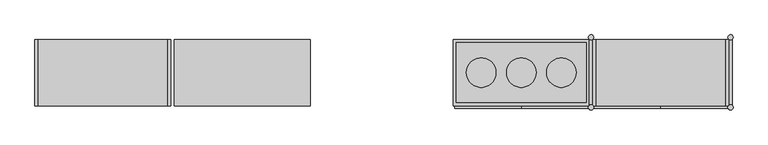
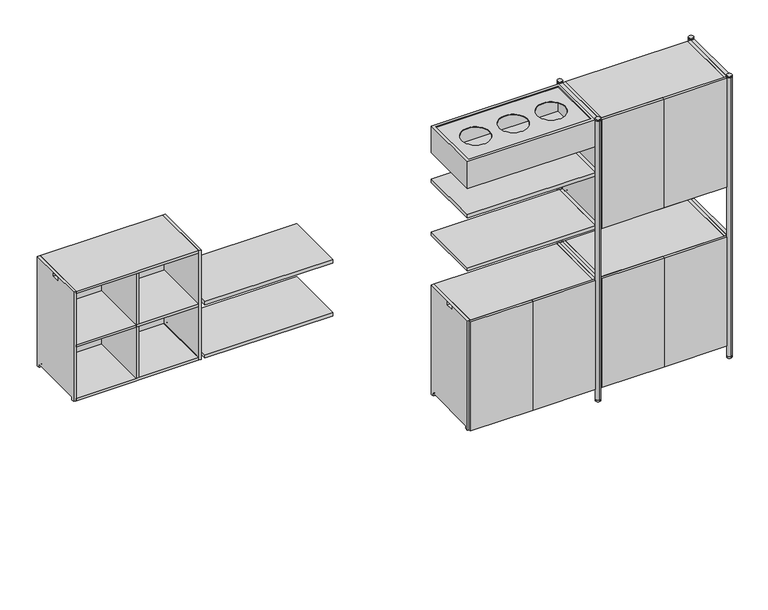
"""IFC4 building model written with IfcOpenShell, lengths in millimetres: furniture geometry, MAKR_TEMPLATE_900mmL1 : MAKR_TEMPLATE_900mmL 2."""

from ifc_helpers import new_model, si_unit, point, frame, frame_2d, origin, origin_with_axes, place, context, project, spatial, polyline, circle_curve, trimmed, segment, composite_curve, outline, extrude, source, transform, mapped, element, save
from ifc_brep_helpers import plane_surface, revolved_surface, advanced_brep


def furniture_f1a00beb(model_context):
    return source(origin(), model_context, "Body", "SolidModel", [
        extrude(outline(polyline([(1375.0, 218.5217186), (1375.0, -221.4782814), (475.0, -221.4782814), (475.0, 218.5217186), (1375.0, 218.5217186)])), frame((0.0, 0.0, 1274.0), z_axis=(0.0, 0.0, 1.0), x_axis=(1.0, 0.0, 0.0)), (0.0, 0.0, 1.0), 25.0),
        extrude(outline(polyline([(1375.0, 218.5217186), (1375.0, -221.4782814), (475.0, -221.4782814), (475.0, 218.5217186), (1375.0, 218.5217186)])), frame((0.0, 0.0, 1669.0), z_axis=(0.0, 0.0, 1.0), x_axis=(1.0, 0.0, 0.0)), (0.0, 0.0, 1.0), 25.0),
        extrude(outline(composite_curve([segment(polyline([(-221.4782814, 2089.0), (218.5217186, 2089.0), (218.5217186, 1274.0), (196.5217186, 1274.0), (196.5217186, 1291.0)]), True, "CONTINUOUS"), segment(trimmed(circle_curve(frame_2d((192.5217186, 1291.0)), 4.0), [point((196.5217186, 1291.0))], [point((192.5217186, 1295.0))], True, "CARTESIAN"), True, "CONTINUOUS"), segment(polyline([(192.5217186, 1295.0), (-195.4782814, 1295.0)]), True, "CONTINUOUS"), segment(trimmed(circle_curve(frame_2d((-195.4782814, 1291.0)), 4.0), [point((-195.4782814, 1295.0))], [point((-199.4782814, 1291.0))], True, "CARTESIAN"), True, "CONTINUOUS"), segment(polyline([(-199.4782814, 1291.0), (-199.4782814, 1274.0), (-221.4782814, 1274.0), (-221.4782814, 2089.0)]), True, "CONTINUOUS")], self_intersect=False), holes=[polyline([(-27.4782814, 2084.0), (-27.4782814, 2059.0), (24.5217186, 2059.0), (24.5217186, 2084.0), (-27.4782814, 2084.0)])]), frame((1400.0, 0.0, 0.0), z_axis=(1.0, 0.0, 0.0), x_axis=(0.0, 1.0, 0.0)), (0.0, 0.0, 1.0), 18.0),
        advanced_brep(
        [(2282.0, 218.5217186, 1292.0), (1418.0, 218.5217186, 1292.0), (1418.0, 196.394702, 1292.0), (1423.8980785, 196.394702, 1292.0), (1423.8980785, -199.3512647, 1292.0), (1418.0, -199.3512647, 1292.0), (1418.0, -221.4782814, 1292.0), (2282.0, -221.4782814, 1292.0), (2282.0, 218.5217186, 1274.0), (2282.0, -221.4782814, 1274.0), (1418.0, -221.4782814, 1274.0), (1418.0, -199.4782814, 1274.0), (1423.8980785, -199.4782814, 1274.0), (1423.8980785, 196.5217186, 1274.0), (1418.0, 196.5217186, 1274.0), (1418.0, 218.5217186, 1274.0), (1418.0, 196.5217186, 1291.0), (1418.0, -199.4782814, 1291.0), (1423.8980785, 196.5217186, 1291.0), (1423.8980785, -199.4782814, 1291.0)],
        [
            (0, 1),
            (1, 2),
            (2, 3),
            (3, 4),
            (4, 5),
            (5, 6),
            (6, 7),
            (7, 0),
            (8, 9),
            (9, 10),
            (10, 11),
            (11, 12),
            (12, 13),
            (13, 14),
            (14, 15),
            (15, 8),
            (0, 8),
            (15, 1),
            (14, 16),
            (16, 2, circle_curve(frame((1418.0, 192.5217186, 1291.0), z_axis=(1.0, 0.0, 0.0), x_axis=(0.0, 1.0, 0.0)), 4.0)),
            (10, 6),
            (5, 17, circle_curve(frame((1418.0, -195.4782814, 1291.0), z_axis=(1.0, 0.0, 0.0), x_axis=(0.0, 1.0, 0.0)), 4.0)),
            (17, 11),
            (9, 7),
            (18, 13),
            (12, 19),
            (19, 4, circle_curve(frame((1423.8980785, -195.4782814, 1291.0), z_axis=(-1.0, 0.0, 0.0), x_axis=(0.0, 1.0, 0.0)), 4.0)),
            (3, 18, circle_curve(frame((1423.8980785, 192.5217186, 1291.0), z_axis=(-1.0, 0.0, 0.0), x_axis=(0.0, 1.0, 0.0)), 4.0)),
            (19, 17),
            (18, 16),
        ],
        [
            plane_surface(frame((1418.0, 218.5217186, 1292.0), z_axis=(0.0, 0.0, 1.0), x_axis=(-1.0, 0.0, 0.0))),
            plane_surface(frame((1418.0, 218.5217186, 1274.0), z_axis=(0.0, 0.0, -1.0), x_axis=(1.0, 0.0, 0.0))),
            plane_surface(frame((2282.0, 218.5217186, 1292.0), z_axis=(0.0, 1.0, 0.0), x_axis=(0.0, 0.0, -1.0))),
            plane_surface(frame((1418.0, 218.5217186, 1292.0), z_axis=(-1.0, 0.0, 0.0), x_axis=(0.0, 0.0, -1.0))),
            plane_surface(frame((1418.0, -221.4782814, 1292.0), z_axis=(0.0, -1.0, 0.0), x_axis=(0.0, 0.0, -1.0))),
            plane_surface(frame((2282.0, -221.4782814, 1292.0), z_axis=(1.0, 0.0, 0.0), x_axis=(0.0, 0.0, -1.0))),
            plane_surface(frame((1423.8980785, -191.4782814, 1291.0), z_axis=(-1.0, 0.0, 0.0), x_axis=(0.0, 0.0, 1.0))),
            revolved_surface(polyline([(1423.8980785, -191.4782814, 1291.0), (1418.0, -191.4782814, 1291.0)]), (1393.9541772, -195.4782814, 1291.0), (1.0, 0.0, 0.0)),
            plane_surface(frame((1423.8980785, -199.4782814, 1291.0), z_axis=(0.0, 1.0, 0.0), x_axis=(-1.0, 0.0, 0.0))),
            plane_surface(frame((1423.8980785, 196.5217186, 1274.0), z_axis=(0.0, -1.0, 0.0), x_axis=(-1.0, 0.0, 0.0))),
            revolved_surface(polyline([(1423.8980785, 196.5217186, 1291.0), (1418.0, 196.5217186, 1291.0)]), (1393.9541772, 192.5217186, 1291.0), (1.0, 0.0, 0.0)),
        ],
        [
            (0, [[1, 2, 3, 4, 5, 6, 7, 8]]),
            (1, [[9, 10, 11, 12, 13, 14, 15, 16]]),
            (2, [[-1, 17, -16, 18]]),
            (3, [[-18, -15, 19, 20, -2]]),
            (3, [[21, -6, 22, 23, -11]]),
            (4, [[-7, -21, -10, 24]]),
            (5, [[-8, -24, -9, -17]]),
            (6, [[25, -13, 26, 27, -4, 28]]),
            (7, [[-27, 29, -22, -5]]),
            (8, [[-26, -12, -23, -29]]),
            (9, [[-25, 30, -19, -14]]),
            (10, [[-28, -3, -20, -30]]),
        ],
    ),
        extrude(outline(composite_curve([segment(polyline([(-221.4782814, 2089.0), (218.5217186, 2089.0), (218.5217186, 1274.0), (196.5217186, 1274.0), (196.5217186, 1291.0)]), True, "CONTINUOUS"), segment(trimmed(circle_curve(frame_2d((192.5217186, 1291.0)), 4.0), [point((196.5217186, 1291.0))], [point((192.5217186, 1295.0))], True, "CARTESIAN"), True, "CONTINUOUS"), segment(polyline([(192.5217186, 1295.0), (-195.4782814, 1295.0)]), True, "CONTINUOUS"), segment(trimmed(circle_curve(frame_2d((-195.4782814, 1291.0)), 4.0), [point((-195.4782814, 1295.0))], [point((-199.4782814, 1291.0))], True, "CARTESIAN"), True, "CONTINUOUS"), segment(polyline([(-199.4782814, 1291.0), (-199.4782814, 1274.0), (-221.4782814, 1274.0), (-221.4782814, 2089.0)]), True, "CONTINUOUS")], self_intersect=False), holes=[polyline([(-27.4782814, 2084.0), (-27.4782814, 2059.0), (24.5217186, 2059.0), (24.5217186, 2084.0), (-27.4782814, 2084.0)])]), frame((2282.0, 0.0, 0.0), z_axis=(1.0, 0.0, 0.0), x_axis=(0.0, 1.0, 0.0)), (0.0, 0.0, 1.0), 18.0),
        extrude(outline(polyline([(2282.0, 218.5217186), (2282.0, 200.5217186), (1418.0, 200.5217186), (1418.0, 218.5217186), (2282.0, 218.5217186)])), frame((0.0, 0.0, 1292.0), z_axis=(0.0, 0.0, 1.0), x_axis=(1.0, 0.0, 0.0)), (0.0, 0.0, 1.0), 779.0),
        extrude(outline(polyline([(2282.0, 200.5217186), (2282.0, -221.4782814), (1418.0, -221.4782814), (1418.0, 200.5217186), (2282.0, 200.5217186)])), frame((0.0, 0.0, 1672.5), z_axis=(0.0, 0.0, 1.0), x_axis=(1.0, 0.0, 0.0)), (0.0, 0.0, 1.0), 18.0),
        extrude(outline(polyline([(2282.0, 218.5217186), (2282.0, -221.4782814), (1418.0, -221.4782814), (1418.0, 218.5217186), (2282.0, 218.5217186)])), frame((0.0, 0.0, 2071.0), z_axis=(0.0, 0.0, 1.0), x_axis=(1.0, 0.0, 0.0)), (0.0, 0.0, 1.0), 18.0),
        extrude(outline(polyline([(1859.0, 200.5217186), (1859.0, -221.4782814), (1841.0, -221.4782814), (1841.0, 200.5217186), (1859.0, 200.5217186)])), frame((0.0, 0.0, 1292.0), z_axis=(0.0, 0.0, 1.0), x_axis=(1.0, 0.0, 0.0)), (0.0, 0.0, 1.0), 779.0),
        extrude(outline(polyline([(2291.0, -221.4782814), (2291.0, -239.4782814), (1851.0, -239.4782814), (1851.0, -221.4782814), (2291.0, -221.4782814)])), frame((0.0, 0.0, 1276.0), z_axis=(0.0, 0.0, 1.0), x_axis=(1.0, 0.0, 0.0)), (0.0, 0.0, 1.0), 811.0),
        extrude(outline(polyline([(1409.0, -221.4782814), (1849.0, -221.4782814), (1849.0, -239.4782814), (1409.0, -239.4782814), (1409.0, -221.4782814)])), frame((0.0, 0.0, 1276.0), z_axis=(0.0, 0.0, 1.0), x_axis=(1.0, 0.0, 0.0)), (0.0, 0.0, 1.0), 811.0),
        extrude(outline(composite_curve([segment(polyline([(218.5217186, 904.0), (218.5217186, 89.0), (196.5217186, 89.0), (196.5217186, 106.0)]), True, "CONTINUOUS"), segment(trimmed(circle_curve(frame_2d((192.5217186, 106.0)), 4.0), [point((196.5217186, 106.0))], [point((192.5217186, 110.0))], True, "CARTESIAN"), True, "CONTINUOUS"), segment(polyline([(192.5217186, 110.0), (-195.4782814, 110.0)]), True, "CONTINUOUS"), segment(trimmed(circle_curve(frame_2d((-195.4782814, 106.0)), 4.0), [point((-195.4782814, 110.0))], [point((-199.4782814, 106.0))], True, "CARTESIAN"), True, "CONTINUOUS"), segment(polyline([(-199.4782814, 106.0), (-199.4782814, 89.0), (-221.4782814, 89.0), (-221.4782814, 904.0), (218.5217186, 904.0)]), True, "CONTINUOUS")], self_intersect=False), holes=[polyline([(-27.4782814, 874.0), (24.5217186, 874.0), (24.5217186, 899.0), (-27.4782814, 899.0), (-27.4782814, 874.0)])]), frame((2282.0, 0.0, 0.0), z_axis=(1.0, 0.0, 0.0), x_axis=(0.0, 1.0, 0.0)), (0.0, 0.0, 1.0), 18.0),
        advanced_brep(
        [(1418.0, 218.5217186, 107.0), (1418.0, -221.4782814, 107.0), (2282.0, -221.4782814, 107.0), (2282.0, -199.3512647, 107.0), (2276.1019215, -199.3512647, 107.0), (2276.1019215, 196.394702, 107.0), (2282.0, 196.394702, 107.0), (2282.0, 218.5217186, 107.0), (1418.0, 218.5217186, 89.0), (2282.0, 218.5217186, 89.0), (2282.0, 196.5217186, 89.0), (2276.1019215, 196.5217186, 89.0), (2276.1019215, -199.4782814, 89.0), (2282.0, -199.4782814, 89.0), (2282.0, -221.4782814, 89.0), (1418.0, -221.4782814, 89.0), (2282.0, 196.5217186, 106.0), (2282.0, -199.4782814, 106.0), (2276.1019215, 196.5217186, 106.0), (2276.1019215, -199.4782814, 106.0)],
        [
            (0, 1),
            (1, 2),
            (2, 3),
            (3, 4),
            (4, 5),
            (5, 6),
            (6, 7),
            (7, 0),
            (8, 9),
            (9, 10),
            (10, 11),
            (11, 12),
            (12, 13),
            (13, 14),
            (14, 15),
            (15, 8),
            (7, 9),
            (8, 0),
            (6, 16, circle_curve(frame((2282.0, 192.5217186, 106.0), z_axis=(-1.0, 0.0, 0.0), x_axis=(0.0, 1.0, 0.0)), 4.0)),
            (16, 10),
            (13, 17),
            (17, 3, circle_curve(frame((2282.0, -195.4782814, 106.0), z_axis=(-1.0, 0.0, 0.0), x_axis=(0.0, 1.0, 0.0)), 4.0)),
            (2, 14),
            (1, 15),
            (18, 5, circle_curve(frame((2276.1019215, 192.5217186, 106.0), z_axis=(1.0, 0.0, 0.0), x_axis=(0.0, 1.0, 0.0)), 4.0)),
            (4, 19, circle_curve(frame((2276.1019215, -195.4782814, 106.0), z_axis=(1.0, 0.0, 0.0), x_axis=(0.0, 1.0, 0.0)), 4.0)),
            (19, 12),
            (11, 18),
            (17, 19),
            (16, 18),
        ],
        [
            plane_surface(frame((2282.0, 218.5217186, 107.0), z_axis=(0.0, 0.0, 1.0), x_axis=(1.0, 0.0, 0.0))),
            plane_surface(frame((2282.0, 218.5217186, 89.0), z_axis=(0.0, 0.0, -1.0), x_axis=(-1.0, 0.0, 0.0))),
            plane_surface(frame((1418.0, 218.5217186, 107.0), z_axis=(0.0, 1.0, 0.0), x_axis=(0.0, 0.0, -1.0))),
            plane_surface(frame((2282.0, 218.5217186, 107.0), z_axis=(1.0, 0.0, 0.0), x_axis=(0.0, 0.0, -1.0))),
            plane_surface(frame((2282.0, -221.4782814, 107.0), z_axis=(0.0, -1.0, 0.0), x_axis=(0.0, 0.0, -1.0))),
            plane_surface(frame((1418.0, -221.4782814, 107.0), z_axis=(-1.0, 0.0, 0.0), x_axis=(0.0, 0.0, -1.0))),
            plane_surface(frame((2276.1019215, -191.4782814, 106.0), z_axis=(1.0, 0.0, 0.0), x_axis=(0.0, 0.0, 1.0))),
            revolved_surface(polyline([(2276.1019215, -191.4782814, 106.0), (2282.0, -191.4782814, 106.0)]), (2306.0458228, -195.4782814, 106.0), (-1.0, 0.0, 0.0)),
            plane_surface(frame((2276.1019215, -199.4782814, 106.0), z_axis=(0.0, 1.0, 0.0), x_axis=(1.0, 0.0, 0.0))),
            plane_surface(frame((2276.1019215, 196.5217186, 89.0), z_axis=(0.0, -1.0, 0.0), x_axis=(1.0, 0.0, 0.0))),
            revolved_surface(polyline([(2276.1019215, 196.5217186, 106.0), (2282.0, 196.5217186, 106.0)]), (2306.0458228, 192.5217186, 106.0), (-1.0, 0.0, 0.0)),
        ],
        [
            (0, [[1, 2, 3, 4, 5, 6, 7, 8]]),
            (1, [[9, 10, 11, 12, 13, 14, 15, 16]]),
            (2, [[17, -9, 18, -8]]),
            (3, [[-7, 19, 20, -10, -17]]),
            (3, [[-14, 21, 22, -3, 23]]),
            (4, [[24, -15, -23, -2]]),
            (5, [[-18, -16, -24, -1]]),
            (6, [[25, -5, 26, 27, -12, 28]]),
            (7, [[-4, -22, 29, -26]]),
            (8, [[-29, -21, -13, -27]]),
            (9, [[-11, -20, 30, -28]]),
            (10, [[-30, -19, -6, -25]]),
        ],
    ),
        extrude(outline(composite_curve([segment(polyline([(218.5217186, 904.0), (218.5217186, 89.0), (196.5217186, 89.0), (196.5217186, 106.0)]), True, "CONTINUOUS"), segment(trimmed(circle_curve(frame_2d((192.5217186, 106.0)), 4.0), [point((196.5217186, 106.0))], [point((192.5217186, 110.0))], True, "CARTESIAN"), True, "CONTINUOUS"), segment(polyline([(192.5217186, 110.0), (-195.4782814, 110.0)]), True, "CONTINUOUS"), segment(trimmed(circle_curve(frame_2d((-195.4782814, 106.0)), 4.0), [point((-195.4782814, 110.0))], [point((-199.4782814, 106.0))], True, "CARTESIAN"), True, "CONTINUOUS"), segment(polyline([(-199.4782814, 106.0), (-199.4782814, 89.0), (-221.4782814, 89.0), (-221.4782814, 904.0), (218.5217186, 904.0)]), True, "CONTINUOUS")], self_intersect=False), holes=[polyline([(-27.4782814, 874.0), (24.5217186, 874.0), (24.5217186, 899.0), (-27.4782814, 899.0), (-27.4782814, 874.0)])]), frame((1400.0, 0.0, 0.0), z_axis=(1.0, 0.0, 0.0), x_axis=(0.0, 1.0, 0.0)), (0.0, 0.0, 1.0), 18.0),
        extrude(outline(polyline([(1418.0, 218.5217186), (2282.0, 218.5217186), (2282.0, 200.5217186), (1418.0, 200.5217186), (1418.0, 218.5217186)])), frame((0.0, 0.0, 107.0), z_axis=(0.0, 0.0, 1.0), x_axis=(1.0, 0.0, 0.0)), (0.0, 0.0, 1.0), 779.0),
        extrude(outline(polyline([(1418.0, 200.5217186), (2282.0, 200.5217186), (2282.0, -221.4782814), (1418.0, -221.4782814), (1418.0, 200.5217186)])), frame((0.0, 0.0, 487.5), z_axis=(0.0, 0.0, 1.0), x_axis=(1.0, 0.0, 0.0)), (0.0, 0.0, 1.0), 18.0),
        extrude(outline(polyline([(1418.0, 218.5217186), (2282.0, 218.5217186), (2282.0, -221.4782814), (1418.0, -221.4782814), (1418.0, 218.5217186)])), frame((0.0, 0.0, 886.0), z_axis=(0.0, 0.0, 1.0), x_axis=(1.0, 0.0, 0.0)), (0.0, 0.0, 1.0), 18.0),
        extrude(outline(polyline([(1841.0, 200.5217186), (1859.0, 200.5217186), (1859.0, -221.4782814), (1841.0, -221.4782814), (1841.0, 200.5217186)])), frame((0.0, 0.0, 107.0), z_axis=(0.0, 0.0, 1.0), x_axis=(1.0, 0.0, 0.0)), (0.0, 0.0, 1.0), 779.0),
        extrude(outline(polyline([(1409.0, -221.4782814), (1849.0, -221.4782814), (1849.0, -239.4782814), (1409.0, -239.4782814), (1409.0, -221.4782814)])), frame((0.0, 0.0, 91.0), z_axis=(0.0, 0.0, 1.0), x_axis=(1.0, 0.0, 0.0)), (0.0, 0.0, 1.0), 811.0),
        extrude(outline(polyline([(2291.0, -221.4782814), (2291.0, -239.4782814), (1851.0, -239.4782814), (1851.0, -221.4782814), (2291.0, -221.4782814)])), frame((0.0, 0.0, 91.0), z_axis=(0.0, 0.0, 1.0), x_axis=(1.0, 0.0, 0.0)), (0.0, 0.0, 1.0), 811.0),
        extrude(outline(composite_curve([segment(polyline([(218.5217186, 904.0), (218.5217186, 89.0), (196.5217186, 89.0), (196.5217186, 106.0)]), True, "CONTINUOUS"), segment(trimmed(circle_curve(frame_2d((192.5217186, 106.0)), 4.0), [point((196.5217186, 106.0))], [point((192.5217186, 110.0))], True, "CARTESIAN"), True, "CONTINUOUS"), segment(polyline([(192.5217186, 110.0), (-195.4782814, 110.0)]), True, "CONTINUOUS"), segment(trimmed(circle_curve(frame_2d((-195.4782814, 106.0)), 4.0), [point((-195.4782814, 110.0))], [point((-199.4782814, 106.0))], True, "CARTESIAN"), True, "CONTINUOUS"), segment(polyline([(-199.4782814, 106.0), (-199.4782814, 89.0), (-221.4782814, 89.0), (-221.4782814, 904.0), (218.5217186, 904.0)]), True, "CONTINUOUS")], self_intersect=False), holes=[polyline([(-27.4782814, 874.0), (24.5217186, 874.0), (24.5217186, 899.0), (-27.4782814, 899.0), (-27.4782814, 874.0)])]), frame((1357.0, 0.0, 0.0), z_axis=(1.0, 0.0, 0.0), x_axis=(0.0, 1.0, 0.0)), (0.0, 0.0, 1.0), 18.0),
        advanced_brep(
        [(493.0, 218.5217186, 107.0), (493.0, -221.4782814, 107.0), (1357.0, -221.4782814, 107.0), (1357.0, -199.3512647, 107.0), (1351.1019215, -199.3512647, 107.0), (1351.1019215, 196.394702, 107.0), (1357.0, 196.394702, 107.0), (1357.0, 218.5217186, 107.0), (493.0, 218.5217186, 89.0), (1357.0, 218.5217186, 89.0), (1357.0, 196.5217186, 89.0), (1351.1019215, 196.5217186, 89.0), (1351.1019215, -199.4782814, 89.0), (1357.0, -199.4782814, 89.0), (1357.0, -221.4782814, 89.0), (493.0, -221.4782814, 89.0), (1357.0, 196.5217186, 106.0), (1357.0, -199.4782814, 106.0), (1351.1019215, 196.5217186, 106.0), (1351.1019215, -199.4782814, 106.0)],
        [
            (0, 1),
            (1, 2),
            (2, 3),
            (3, 4),
            (4, 5),
            (5, 6),
            (6, 7),
            (7, 0),
            (8, 9),
            (9, 10),
            (10, 11),
            (11, 12),
            (12, 13),
            (13, 14),
            (14, 15),
            (15, 8),
            (7, 9),
            (8, 0),
            (6, 16, circle_curve(frame((1357.0, 192.5217186, 106.0), z_axis=(-1.0, 0.0, 0.0), x_axis=(0.0, 1.0, 0.0)), 4.0)),
            (16, 10),
            (13, 17),
            (17, 3, circle_curve(frame((1357.0, -195.4782814, 106.0), z_axis=(-1.0, 0.0, 0.0), x_axis=(0.0, 1.0, 0.0)), 4.0)),
            (2, 14),
            (1, 15),
            (18, 5, circle_curve(frame((1351.1019215, 192.5217186, 106.0), z_axis=(1.0, 0.0, 0.0), x_axis=(0.0, 1.0, 0.0)), 4.0)),
            (4, 19, circle_curve(frame((1351.1019215, -195.4782814, 106.0), z_axis=(1.0, 0.0, 0.0), x_axis=(0.0, 1.0, 0.0)), 4.0)),
            (19, 12),
            (11, 18),
            (17, 19),
            (16, 18),
        ],
        [
            plane_surface(frame((1357.0, 218.5217186, 107.0), z_axis=(0.0, 0.0, 1.0), x_axis=(1.0, 0.0, 0.0))),
            plane_surface(frame((1357.0, 218.5217186, 89.0), z_axis=(0.0, 0.0, -1.0), x_axis=(-1.0, 0.0, 0.0))),
            plane_surface(frame((493.0, 218.5217186, 107.0), z_axis=(0.0, 1.0, 0.0), x_axis=(0.0, 0.0, -1.0))),
            plane_surface(frame((1357.0, 218.5217186, 107.0), z_axis=(1.0, 0.0, 0.0), x_axis=(0.0, 0.0, -1.0))),
            plane_surface(frame((1357.0, -221.4782814, 107.0), z_axis=(0.0, -1.0, 0.0), x_axis=(0.0, 0.0, -1.0))),
            plane_surface(frame((493.0, -221.4782814, 107.0), z_axis=(-1.0, 0.0, 0.0), x_axis=(0.0, 0.0, -1.0))),
            plane_surface(frame((1351.1019215, -191.4782814, 106.0), z_axis=(1.0, 0.0, 0.0), x_axis=(0.0, 0.0, 1.0))),
            revolved_surface(polyline([(1351.1019215, -191.4782814, 106.0), (1357.0, -191.4782814, 106.0)]), (1381.0458228, -195.4782814, 106.0), (-1.0, 0.0, 0.0)),
            plane_surface(frame((1351.1019215, -199.4782814, 106.0), z_axis=(0.0, 1.0, 0.0), x_axis=(1.0, 0.0, 0.0))),
            plane_surface(frame((1351.1019215, 196.5217186, 89.0), z_axis=(0.0, -1.0, 0.0), x_axis=(1.0, 0.0, 0.0))),
            revolved_surface(polyline([(1351.1019215, 196.5217186, 106.0), (1357.0, 196.5217186, 106.0)]), (1381.0458228, 192.5217186, 106.0), (-1.0, 0.0, 0.0)),
        ],
        [
            (0, [[1, 2, 3, 4, 5, 6, 7, 8]]),
            (1, [[9, 10, 11, 12, 13, 14, 15, 16]]),
            (2, [[17, -9, 18, -8]]),
            (3, [[-7, 19, 20, -10, -17]]),
            (3, [[-14, 21, 22, -3, 23]]),
            (4, [[24, -15, -23, -2]]),
            (5, [[-18, -16, -24, -1]]),
            (6, [[25, -5, 26, 27, -12, 28]]),
            (7, [[-4, -22, 29, -26]]),
            (8, [[-29, -21, -13, -27]]),
            (9, [[-11, -20, 30, -28]]),
            (10, [[-30, -19, -6, -25]]),
        ],
    ),
        extrude(outline(composite_curve([segment(polyline([(218.5217186, 904.0), (218.5217186, 89.0), (196.5217186, 89.0), (196.5217186, 106.0)]), True, "CONTINUOUS"), segment(trimmed(circle_curve(frame_2d((192.5217186, 106.0)), 4.0), [point((196.5217186, 106.0))], [point((192.5217186, 110.0))], True, "CARTESIAN"), True, "CONTINUOUS"), segment(polyline([(192.5217186, 110.0), (-195.4782814, 110.0)]), True, "CONTINUOUS"), segment(trimmed(circle_curve(frame_2d((-195.4782814, 106.0)), 4.0), [point((-195.4782814, 110.0))], [point((-199.4782814, 106.0))], True, "CARTESIAN"), True, "CONTINUOUS"), segment(polyline([(-199.4782814, 106.0), (-199.4782814, 89.0), (-221.4782814, 89.0), (-221.4782814, 904.0), (218.5217186, 904.0)]), True, "CONTINUOUS")], self_intersect=False), holes=[polyline([(-27.4782814, 874.0), (24.5217186, 874.0), (24.5217186, 899.0), (-27.4782814, 899.0), (-27.4782814, 874.0)])]), frame((475.0, 0.0, 0.0), z_axis=(1.0, 0.0, 0.0), x_axis=(0.0, 1.0, 0.0)), (0.0, 0.0, 1.0), 18.0),
        extrude(outline(polyline([(493.0, 218.5217186), (1357.0, 218.5217186), (1357.0, 200.5217186), (493.0, 200.5217186), (493.0, 218.5217186)])), frame((0.0, 0.0, 107.0), z_axis=(0.0, 0.0, 1.0), x_axis=(1.0, 0.0, 0.0)), (0.0, 0.0, 1.0), 779.0),
        extrude(outline(polyline([(493.0, 200.5217186), (1357.0, 200.5217186), (1357.0, -221.4782814), (493.0, -221.4782814), (493.0, 200.5217186)])), frame((0.0, 0.0, 487.5), z_axis=(0.0, 0.0, 1.0), x_axis=(1.0, 0.0, 0.0)), (0.0, 0.0, 1.0), 18.0),
        extrude(outline(polyline([(493.0, 218.5217186), (1357.0, 218.5217186), (1357.0, -221.4782814), (493.0, -221.4782814), (493.0, 218.5217186)])), frame((0.0, 0.0, 886.0), z_axis=(0.0, 0.0, 1.0), x_axis=(1.0, 0.0, 0.0)), (0.0, 0.0, 1.0), 18.0),
        extrude(outline(polyline([(916.0, 200.5217186), (934.0, 200.5217186), (934.0, -221.4782814), (916.0, -221.4782814), (916.0, 200.5217186)])), frame((0.0, 0.0, 107.0), z_axis=(0.0, 0.0, 1.0), x_axis=(1.0, 0.0, 0.0)), (0.0, 0.0, 1.0), 779.0),
        extrude(outline(polyline([(484.0, -221.4782814), (924.0, -221.4782814), (924.0, -239.4782814), (484.0, -239.4782814), (484.0, -221.4782814)])), frame((0.0, 0.0, 91.0), z_axis=(0.0, 0.0, 1.0), x_axis=(1.0, 0.0, 0.0)), (0.0, 0.0, 1.0), 811.0),
        extrude(outline(polyline([(1366.0, -221.4782814), (1366.0, -239.4782814), (926.0, -239.4782814), (926.0, -221.4782814), (1366.0, -221.4782814)])), frame((0.0, 0.0, 91.0), z_axis=(0.0, 0.0, 1.0), x_axis=(1.0, 0.0, 0.0)), (0.0, 0.0, 1.0), 811.0),
        extrude(outline(composite_curve([segment(polyline([(2325.0, 221.4782814), (2325.0, -221.4782814)]), True, "CONTINUOUS"), segment(trimmed(circle_curve(frame_2d((2312.5, -233.0)), 17.0), [point((2325.0, -221.4782814))], [point((2300.0, -221.4782814))], True, "CARTESIAN"), True, "CONTINUOUS"), segment(polyline([(2300.0, -221.4782814), (2300.0, 221.4782814)]), True, "CONTINUOUS"), segment(trimmed(circle_curve(frame_2d((2312.5, 233.0)), 17.0), [point((2300.0, 221.4782814))], [point((2325.0, 221.4782814))], True, "CARTESIAN"), True, "CONTINUOUS")], self_intersect=False)), frame((0.0, 0.0, 2064.0), z_axis=(0.0, 0.0, 1.0), x_axis=(1.0, 0.0, 0.0)), (0.0, 0.0, 1.0), 25.0),
        extrude(outline(composite_curve([segment(polyline([(2325.0, 221.4782814), (2325.0, -221.4782814)]), True, "CONTINUOUS"), segment(trimmed(circle_curve(frame_2d((2312.5, -233.0)), 17.0), [point((2325.0, -221.4782814))], [point((2300.0, -221.4782814))], True, "CARTESIAN"), True, "CONTINUOUS"), segment(polyline([(2300.0, -221.4782814), (2300.0, 221.4782814)]), True, "CONTINUOUS"), segment(trimmed(circle_curve(frame_2d((2312.5, 233.0)), 17.0), [point((2300.0, 221.4782814))], [point((2325.0, 221.4782814))], True, "CARTESIAN"), True, "CONTINUOUS")], self_intersect=False)), frame((0.0, 0.0, 1669.0), z_axis=(0.0, 0.0, 1.0), x_axis=(1.0, 0.0, 0.0)), (0.0, 0.0, 1.0), 25.0),
        extrude(outline(composite_curve([segment(polyline([(2325.0, 221.4782814), (2325.0, -221.4782814)]), True, "CONTINUOUS"), segment(trimmed(circle_curve(frame_2d((2312.5, -233.0)), 17.0), [point((2325.0, -221.4782814))], [point((2300.0, -221.4782814))], True, "CARTESIAN"), True, "CONTINUOUS"), segment(polyline([(2300.0, -221.4782814), (2300.0, 221.4782814)]), True, "CONTINUOUS"), segment(trimmed(circle_curve(frame_2d((2312.5, 233.0)), 17.0), [point((2300.0, 221.4782814))], [point((2325.0, 221.4782814))], True, "CARTESIAN"), True, "CONTINUOUS")], self_intersect=False)), frame((0.0, 0.0, 1274.0), z_axis=(0.0, 0.0, 1.0), x_axis=(1.0, 0.0, 0.0)), (0.0, 0.0, 1.0), 25.0),
        extrude(outline(composite_curve([segment(polyline([(2325.0, 221.4782814), (2325.0, -221.4782814)]), True, "CONTINUOUS"), segment(trimmed(circle_curve(frame_2d((2312.5, -233.0)), 17.0), [point((2325.0, -221.4782814))], [point((2300.0, -221.4782814))], True, "CARTESIAN"), True, "CONTINUOUS"), segment(polyline([(2300.0, -221.4782814), (2300.0, 221.4782814)]), True, "CONTINUOUS"), segment(trimmed(circle_curve(frame_2d((2312.5, 233.0)), 17.0), [point((2300.0, 221.4782814))], [point((2325.0, 221.4782814))], True, "CARTESIAN"), True, "CONTINUOUS")], self_intersect=False)), frame((0.0, 0.0, 879.0), z_axis=(0.0, 0.0, 1.0), x_axis=(1.0, 0.0, 0.0)), (0.0, 0.0, 1.0), 25.0),
        extrude(outline(composite_curve([segment(polyline([(2325.0, 221.4782814), (2325.0, -221.4782814)]), True, "CONTINUOUS"), segment(trimmed(circle_curve(frame_2d((2312.5, -233.0)), 17.0), [point((2325.0, -221.4782814))], [point((2300.0, -221.4782814))], True, "CARTESIAN"), True, "CONTINUOUS"), segment(polyline([(2300.0, -221.4782814), (2300.0, 221.4782814)]), True, "CONTINUOUS"), segment(trimmed(circle_curve(frame_2d((2312.5, 233.0)), 17.0), [point((2300.0, 221.4782814))], [point((2325.0, 221.4782814))], True, "CARTESIAN"), True, "CONTINUOUS")], self_intersect=False)), frame((0.0, 0.0, 484.0), z_axis=(0.0, 0.0, 1.0), x_axis=(1.0, 0.0, 0.0)), (0.0, 0.0, 1.0), 25.0),
        extrude(outline(composite_curve([segment(polyline([(2325.0, 221.4782814), (2325.0, -221.4782814)]), True, "CONTINUOUS"), segment(trimmed(circle_curve(frame_2d((2312.5, -233.0)), 17.0), [point((2325.0, -221.4782814))], [point((2300.0, -221.4782814))], True, "CARTESIAN"), True, "CONTINUOUS"), segment(polyline([(2300.0, -221.4782814), (2300.0, 221.4782814)]), True, "CONTINUOUS"), segment(trimmed(circle_curve(frame_2d((2312.5, 233.0)), 17.0), [point((2300.0, 221.4782814))], [point((2325.0, 221.4782814))], True, "CARTESIAN"), True, "CONTINUOUS")], self_intersect=False)), frame((0.0, 0.0, 89.0), z_axis=(0.0, 0.0, 1.0), x_axis=(1.0, 0.0, 0.0)), (0.0, 0.0, 1.0), 25.0),
        extrude(outline(composite_curve([segment(trimmed(circle_curve(frame_2d((2312.5, -233.0)), 17.0), [point((2312.5, -216.0))], [point((2312.5, -250.0))], False, "CARTESIAN"), True, "CONTINUOUS"), segment(trimmed(circle_curve(frame_2d((2312.5, -233.0)), 17.0), [point((2312.5, -250.0))], [point((2312.5, -216.0))], False, "CARTESIAN"), True, "CONTINUOUS")], self_intersect=False)), frame((0.0, 0.0, 2091.0), z_axis=(0.0, 0.0, 1.0), x_axis=(1.0, 0.0, 0.0)), (0.0, 0.0, 1.0), 9.0),
        extrude(outline(composite_curve([segment(trimmed(circle_curve(frame_2d((2312.5, -233.0)), 17.0), [point((2312.5, -216.0))], [point((2312.5, -250.0))], False, "CARTESIAN"), True, "CONTINUOUS"), segment(trimmed(circle_curve(frame_2d((2312.5, -233.0)), 17.0), [point((2312.5, -250.0))], [point((2312.5, -216.0))], False, "CARTESIAN"), True, "CONTINUOUS")], self_intersect=False)), origin_with_axes(), (0.0, 0.0, 1.0), 9.0),
        extrude(outline(composite_curve([segment(trimmed(circle_curve(frame_2d((2312.5, -233.0)), 17.0), [point((2312.5, -216.0))], [point((2312.5, -250.0))], False, "CARTESIAN"), True, "CONTINUOUS"), segment(trimmed(circle_curve(frame_2d((2312.5, -233.0)), 17.0), [point((2312.5, -250.0))], [point((2312.5, -216.0))], False, "CARTESIAN"), True, "CONTINUOUS")], self_intersect=False)), frame((0.0, 0.0, 9.0), z_axis=(0.0, 0.0, 1.0), x_axis=(1.0, 0.0, 0.0)), (0.0, 0.0, 1.0), 2082.0),
        extrude(outline(composite_curve([segment(trimmed(circle_curve(frame_2d((2312.5, 233.0)), 17.0), [point((2312.5, 216.0))], [point((2312.5, 250.0))], False, "CARTESIAN"), True, "CONTINUOUS"), segment(trimmed(circle_curve(frame_2d((2312.5, 233.0)), 17.0), [point((2312.5, 250.0))], [point((2312.5, 216.0))], False, "CARTESIAN"), True, "CONTINUOUS")], self_intersect=False)), frame((0.0, 0.0, 2091.0), z_axis=(0.0, 0.0, 1.0), x_axis=(1.0, 0.0, 0.0)), (0.0, 0.0, 1.0), 9.0),
        extrude(outline(composite_curve([segment(trimmed(circle_curve(frame_2d((2312.5, 233.0)), 17.0), [point((2312.5, 216.0))], [point((2312.5, 250.0))], False, "CARTESIAN"), True, "CONTINUOUS"), segment(trimmed(circle_curve(frame_2d((2312.5, 233.0)), 17.0), [point((2312.5, 250.0))], [point((2312.5, 216.0))], False, "CARTESIAN"), True, "CONTINUOUS")], self_intersect=False)), origin_with_axes(), (0.0, 0.0, 1.0), 9.0),
        extrude(outline(composite_curve([segment(trimmed(circle_curve(frame_2d((2312.5, 233.0)), 17.0), [point((2312.5, 216.0))], [point((2312.5, 250.0))], False, "CARTESIAN"), True, "CONTINUOUS"), segment(trimmed(circle_curve(frame_2d((2312.5, 233.0)), 17.0), [point((2312.5, 250.0))], [point((2312.5, 216.0))], False, "CARTESIAN"), True, "CONTINUOUS")], self_intersect=False)), frame((0.0, 0.0, 9.0), z_axis=(0.0, 0.0, 1.0), x_axis=(1.0, 0.0, 0.0)), (0.0, 0.0, 1.0), 2082.0),
        extrude(outline(composite_curve([segment(polyline([(1400.0, 221.4782814), (1400.0, -221.4782814)]), True, "CONTINUOUS"), segment(trimmed(circle_curve(frame_2d((1387.5, -233.0)), 17.0), [point((1400.0, -221.4782814))], [point((1375.0, -221.4782814))], True, "CARTESIAN"), True, "CONTINUOUS"), segment(polyline([(1375.0, -221.4782814), (1375.0, 221.4782814)]), True, "CONTINUOUS"), segment(trimmed(circle_curve(frame_2d((1387.5, 233.0)), 17.0), [point((1375.0, 221.4782814))], [point((1400.0, 221.4782814))], True, "CARTESIAN"), True, "CONTINUOUS")], self_intersect=False)), frame((0.0, 0.0, 2064.0), z_axis=(0.0, 0.0, 1.0), x_axis=(1.0, 0.0, 0.0)), (0.0, 0.0, 1.0), 25.0),
        extrude(outline(composite_curve([segment(polyline([(1400.0, 221.4782814), (1400.0, -221.4782814)]), True, "CONTINUOUS"), segment(trimmed(circle_curve(frame_2d((1387.5, -233.0)), 17.0), [point((1400.0, -221.4782814))], [point((1375.0, -221.4782814))], True, "CARTESIAN"), True, "CONTINUOUS"), segment(polyline([(1375.0, -221.4782814), (1375.0, 221.4782814)]), True, "CONTINUOUS"), segment(trimmed(circle_curve(frame_2d((1387.5, 233.0)), 17.0), [point((1375.0, 221.4782814))], [point((1400.0, 221.4782814))], True, "CARTESIAN"), True, "CONTINUOUS")], self_intersect=False)), frame((0.0, 0.0, 1669.0), z_axis=(0.0, 0.0, 1.0), x_axis=(1.0, 0.0, 0.0)), (0.0, 0.0, 1.0), 25.0),
        extrude(outline(composite_curve([segment(polyline([(1400.0, 221.4782814), (1400.0, -221.4782814)]), True, "CONTINUOUS"), segment(trimmed(circle_curve(frame_2d((1387.5, -233.0)), 17.0), [point((1400.0, -221.4782814))], [point((1375.0, -221.4782814))], True, "CARTESIAN"), True, "CONTINUOUS"), segment(polyline([(1375.0, -221.4782814), (1375.0, 221.4782814)]), True, "CONTINUOUS"), segment(trimmed(circle_curve(frame_2d((1387.5, 233.0)), 17.0), [point((1375.0, 221.4782814))], [point((1400.0, 221.4782814))], True, "CARTESIAN"), True, "CONTINUOUS")], self_intersect=False)), frame((0.0, 0.0, 1274.0), z_axis=(0.0, 0.0, 1.0), x_axis=(1.0, 0.0, 0.0)), (0.0, 0.0, 1.0), 25.0),
        extrude(outline(composite_curve([segment(polyline([(1400.0, 221.4782814), (1400.0, -221.4782814)]), True, "CONTINUOUS"), segment(trimmed(circle_curve(frame_2d((1387.5, -233.0)), 17.0), [point((1400.0, -221.4782814))], [point((1375.0, -221.4782814))], True, "CARTESIAN"), True, "CONTINUOUS"), segment(polyline([(1375.0, -221.4782814), (1375.0, 221.4782814)]), True, "CONTINUOUS"), segment(trimmed(circle_curve(frame_2d((1387.5, 233.0)), 17.0), [point((1375.0, 221.4782814))], [point((1400.0, 221.4782814))], True, "CARTESIAN"), True, "CONTINUOUS")], self_intersect=False)), frame((0.0, 0.0, 879.0), z_axis=(0.0, 0.0, 1.0), x_axis=(1.0, 0.0, 0.0)), (0.0, 0.0, 1.0), 25.0),
        extrude(outline(composite_curve([segment(polyline([(1400.0, 221.4782814), (1400.0, -221.4782814)]), True, "CONTINUOUS"), segment(trimmed(circle_curve(frame_2d((1387.5, -233.0)), 17.0), [point((1400.0, -221.4782814))], [point((1375.0, -221.4782814))], True, "CARTESIAN"), True, "CONTINUOUS"), segment(polyline([(1375.0, -221.4782814), (1375.0, 221.4782814)]), True, "CONTINUOUS"), segment(trimmed(circle_curve(frame_2d((1387.5, 233.0)), 17.0), [point((1375.0, 221.4782814))], [point((1400.0, 221.4782814))], True, "CARTESIAN"), True, "CONTINUOUS")], self_intersect=False)), frame((0.0, 0.0, 484.0), z_axis=(0.0, 0.0, 1.0), x_axis=(1.0, 0.0, 0.0)), (0.0, 0.0, 1.0), 25.0),
        extrude(outline(composite_curve([segment(polyline([(1400.0, 221.4782814), (1400.0, -221.4782814)]), True, "CONTINUOUS"), segment(trimmed(circle_curve(frame_2d((1387.5, -233.0)), 17.0), [point((1400.0, -221.4782814))], [point((1375.0, -221.4782814))], True, "CARTESIAN"), True, "CONTINUOUS"), segment(polyline([(1375.0, -221.4782814), (1375.0, 221.4782814)]), True, "CONTINUOUS"), segment(trimmed(circle_curve(frame_2d((1387.5, 233.0)), 17.0), [point((1375.0, 221.4782814))], [point((1400.0, 221.4782814))], True, "CARTESIAN"), True, "CONTINUOUS")], self_intersect=False)), frame((0.0, 0.0, 89.0), z_axis=(0.0, 0.0, 1.0), x_axis=(1.0, 0.0, 0.0)), (0.0, 0.0, 1.0), 25.0),
        extrude(outline(composite_curve([segment(trimmed(circle_curve(frame_2d((1387.5, -233.0)), 17.0), [point((1387.5, -216.0))], [point((1387.5, -250.0))], False, "CARTESIAN"), True, "CONTINUOUS"), segment(trimmed(circle_curve(frame_2d((1387.5, -233.0)), 17.0), [point((1387.5, -250.0))], [point((1387.5, -216.0))], False, "CARTESIAN"), True, "CONTINUOUS")], self_intersect=False)), frame((0.0, 0.0, 2091.0), z_axis=(0.0, 0.0, 1.0), x_axis=(1.0, 0.0, 0.0)), (0.0, 0.0, 1.0), 9.0),
        extrude(outline(composite_curve([segment(trimmed(circle_curve(frame_2d((1387.5, -233.0)), 17.0), [point((1387.5, -216.0))], [point((1387.5, -250.0))], False, "CARTESIAN"), True, "CONTINUOUS"), segment(trimmed(circle_curve(frame_2d((1387.5, -233.0)), 17.0), [point((1387.5, -250.0))], [point((1387.5, -216.0))], False, "CARTESIAN"), True, "CONTINUOUS")], self_intersect=False)), origin_with_axes(), (0.0, 0.0, 1.0), 9.0),
        extrude(outline(composite_curve([segment(trimmed(circle_curve(frame_2d((1387.5, -233.0)), 17.0), [point((1387.5, -216.0))], [point((1387.5, -250.0))], False, "CARTESIAN"), True, "CONTINUOUS"), segment(trimmed(circle_curve(frame_2d((1387.5, -233.0)), 17.0), [point((1387.5, -250.0))], [point((1387.5, -216.0))], False, "CARTESIAN"), True, "CONTINUOUS")], self_intersect=False)), frame((0.0, 0.0, 9.0), z_axis=(0.0, 0.0, 1.0), x_axis=(1.0, 0.0, 0.0)), (0.0, 0.0, 1.0), 2082.0),
        extrude(outline(composite_curve([segment(trimmed(circle_curve(frame_2d((1387.5, 233.0)), 17.0), [point((1387.5, 216.0))], [point((1387.5, 250.0))], False, "CARTESIAN"), True, "CONTINUOUS"), segment(trimmed(circle_curve(frame_2d((1387.5, 233.0)), 17.0), [point((1387.5, 250.0))], [point((1387.5, 216.0))], False, "CARTESIAN"), True, "CONTINUOUS")], self_intersect=False)), frame((0.0, 0.0, 2091.0), z_axis=(0.0, 0.0, 1.0), x_axis=(1.0, 0.0, 0.0)), (0.0, 0.0, 1.0), 9.0),
        extrude(outline(composite_curve([segment(trimmed(circle_curve(frame_2d((1387.5, 233.0)), 17.0), [point((1387.5, 216.0))], [point((1387.5, 250.0))], False, "CARTESIAN"), True, "CONTINUOUS"), segment(trimmed(circle_curve(frame_2d((1387.5, 233.0)), 17.0), [point((1387.5, 250.0))], [point((1387.5, 216.0))], False, "CARTESIAN"), True, "CONTINUOUS")], self_intersect=False)), origin_with_axes(), (0.0, 0.0, 1.0), 9.0),
        extrude(outline(composite_curve([segment(trimmed(circle_curve(frame_2d((1387.5, 233.0)), 17.0), [point((1387.5, 216.0))], [point((1387.5, 250.0))], False, "CARTESIAN"), True, "CONTINUOUS"), segment(trimmed(circle_curve(frame_2d((1387.5, 233.0)), 17.0), [point((1387.5, 250.0))], [point((1387.5, 216.0))], False, "CARTESIAN"), True, "CONTINUOUS")], self_intersect=False)), frame((0.0, 0.0, 9.0), z_axis=(0.0, 0.0, 1.0), x_axis=(1.0, 0.0, 0.0)), (0.0, 0.0, 1.0), 2082.0),
        extrude(outline(polyline([(1375.0, 218.5217186), (1375.0, -221.4782814), (475.0, -221.4782814), (475.0, 218.5217186), (1375.0, 218.5217186)]), holes=[polyline([(495.0, 198.5217186), (495.0, -201.4782814), (1355.0, -201.4782814), (1355.0, 198.5217186), (495.0, 198.5217186)])]), frame((0.0, 0.0, 1889.0), z_axis=(0.0, 0.0, 1.0), x_axis=(1.0, 0.0, 0.0)), (0.0, 0.0, 1.0), 200.0),
        extrude(outline(polyline([(1355.0, 198.5217186), (1355.0, -201.4782814), (495.0, -201.4782814), (495.0, 198.5217186), (1355.0, 198.5217186)])), frame((0.0, 0.0, 1889.0), z_axis=(0.0, 0.0, 1.0), x_axis=(1.0, 0.0, 0.0)), (0.0, 0.0, 1.0), 15.0),
        extrude(outline(polyline([(1355.0, 198.5217186), (1355.0, -201.4782814), (495.0, -201.4782814), (495.0, 198.5217186), (1355.0, 198.5217186)]), holes=[composite_curve([segment(trimmed(circle_curve(frame_2d((925.0, -1.4782814)), 98.0), [point((827.0, -1.4782814))], [point((1023.0, -1.4782814))], True, "CARTESIAN"), True, "CONTINUOUS"), segment(trimmed(circle_curve(frame_2d((925.0, -1.4782814)), 98.0), [point((1023.0, -1.4782814))], [point((827.0, -1.4782814))], True, "CARTESIAN"), True, "CONTINUOUS")], self_intersect=False), composite_curve([segment(trimmed(circle_curve(frame_2d((1191.0, -1.4782814)), 98.0), [point((1093.0, -1.4782814))], [point((1289.0, -1.4782814))], True, "CARTESIAN"), True, "CONTINUOUS"), segment(trimmed(circle_curve(frame_2d((1191.0, -1.4782814)), 98.0), [point((1289.0, -1.4782814))], [point((1093.0, -1.4782814))], True, "CARTESIAN"), True, "CONTINUOUS")], self_intersect=False), composite_curve([segment(trimmed(circle_curve(frame_2d((659.0, -1.4782814)), 98.0), [point((561.0, -1.4782814))], [point((757.0, -1.4782814))], True, "CARTESIAN"), True, "CONTINUOUS"), segment(trimmed(circle_curve(frame_2d((659.0, -1.4782814)), 98.0), [point((757.0, -1.4782814))], [point((561.0, -1.4782814))], True, "CARTESIAN"), True, "CONTINUOUS")], self_intersect=False)]), frame((0.0, 0.0, 2080.4363245), z_axis=(0.0, 0.0, 1.0), x_axis=(1.0, 0.0, 0.0)), (0.0, 0.0, 1.0), 3.5636755),
        extrude(outline(polyline([(-1375.0, 218.5217186), (-475.0, 218.5217186), (-475.0, -221.4782814), (-1375.0, -221.4782814), (-1375.0, 218.5217186)])), frame((0.0, 0.0, 1274.0), z_axis=(0.0, 0.0, 1.0), x_axis=(1.0, 0.0, 0.0)), (0.0, 0.0, 1.0), 25.0),
        extrude(outline(polyline([(-1375.0, 218.5217186), (-475.0, 218.5217186), (-475.0, -221.4782814), (-1375.0, -221.4782814), (-1375.0, 218.5217186)])), frame((0.0, 0.0, 1669.0), z_axis=(0.0, 0.0, 1.0), x_axis=(1.0, 0.0, 0.0)), (0.0, 0.0, 1.0), 25.0),
        extrude(outline(composite_curve([segment(polyline([(218.5217186, 2089.0), (218.5217186, 1274.0), (196.5217186, 1274.0), (196.5217186, 1291.0)]), True, "CONTINUOUS"), segment(trimmed(circle_curve(frame_2d((192.5217186, 1291.0)), 4.0), [point((196.5217186, 1291.0))], [point((192.5217186, 1295.0))], True, "CARTESIAN"), True, "CONTINUOUS"), segment(polyline([(192.5217186, 1295.0), (-195.4782814, 1295.0)]), True, "CONTINUOUS"), segment(trimmed(circle_curve(frame_2d((-195.4782814, 1291.0)), 4.0), [point((-195.4782814, 1295.0))], [point((-199.4782814, 1291.0))], True, "CARTESIAN"), True, "CONTINUOUS"), segment(polyline([(-199.4782814, 1291.0), (-199.4782814, 1274.0), (-221.4782814, 1274.0), (-221.4782814, 2089.0), (218.5217186, 2089.0)]), True, "CONTINUOUS")], self_intersect=False), holes=[polyline([(-27.4782814, 2059.0), (24.5217186, 2059.0), (24.5217186, 2084.0), (-27.4782814, 2084.0), (-27.4782814, 2059.0)])]), frame((-1418.0, 0.0, 0.0), z_axis=(1.0, 0.0, 0.0), x_axis=(0.0, 1.0, 0.0)), (0.0, 0.0, 1.0), 18.0),
        advanced_brep(
        [(-2282.0, 218.5217186, 1292.0), (-2282.0, -221.4782814, 1292.0), (-1418.0, -221.4782814, 1292.0), (-1418.0, -199.3512647, 1292.0), (-1423.8980785, -199.3512647, 1292.0), (-1423.8980785, 196.394702, 1292.0), (-1418.0, 196.394702, 1292.0), (-1418.0, 218.5217186, 1292.0), (-2282.0, 218.5217186, 1274.0), (-1418.0, 218.5217186, 1274.0), (-1418.0, 196.5217186, 1274.0), (-1423.8980785, 196.5217186, 1274.0), (-1423.8980785, -199.4782814, 1274.0), (-1418.0, -199.4782814, 1274.0), (-1418.0, -221.4782814, 1274.0), (-2282.0, -221.4782814, 1274.0), (-1418.0, 196.5217186, 1291.0), (-1418.0, -199.4782814, 1291.0), (-1423.8980785, 196.5217186, 1291.0), (-1423.8980785, -199.4782814, 1291.0)],
        [
            (0, 1),
            (1, 2),
            (2, 3),
            (3, 4),
            (4, 5),
            (5, 6),
            (6, 7),
            (7, 0),
            (8, 9),
            (9, 10),
            (10, 11),
            (11, 12),
            (12, 13),
            (13, 14),
            (14, 15),
            (15, 8),
            (7, 9),
            (8, 0),
            (6, 16, circle_curve(frame((-1418.0, 192.5217186, 1291.0), z_axis=(-1.0, 0.0, 0.0), x_axis=(0.0, 1.0, 0.0)), 4.0)),
            (16, 10),
            (13, 17),
            (17, 3, circle_curve(frame((-1418.0, -195.4782814, 1291.0), z_axis=(-1.0, 0.0, 0.0), x_axis=(0.0, 1.0, 0.0)), 4.0)),
            (2, 14),
            (1, 15),
            (18, 5, circle_curve(frame((-1423.8980785, 192.5217186, 1291.0), z_axis=(1.0, 0.0, 0.0), x_axis=(0.0, 1.0, 0.0)), 4.0)),
            (4, 19, circle_curve(frame((-1423.8980785, -195.4782814, 1291.0), z_axis=(1.0, 0.0, 0.0), x_axis=(0.0, 1.0, 0.0)), 4.0)),
            (19, 12),
            (11, 18),
            (17, 19),
            (16, 18),
        ],
        [
            plane_surface(frame((-1418.0, 218.5217186, 1292.0), z_axis=(0.0, 0.0, 1.0), x_axis=(1.0, 0.0, 0.0))),
            plane_surface(frame((-1418.0, 218.5217186, 1274.0), z_axis=(0.0, 0.0, -1.0), x_axis=(-1.0, 0.0, 0.0))),
            plane_surface(frame((-2282.0, 218.5217186, 1292.0), z_axis=(0.0, 1.0, 0.0), x_axis=(0.0, 0.0, -1.0))),
            plane_surface(frame((-1418.0, 218.5217186, 1292.0), z_axis=(1.0, 0.0, 0.0), x_axis=(0.0, 0.0, -1.0))),
            plane_surface(frame((-1418.0, -221.4782814, 1292.0), z_axis=(0.0, -1.0, 0.0), x_axis=(0.0, 0.0, -1.0))),
            plane_surface(frame((-2282.0, -221.4782814, 1292.0), z_axis=(-1.0, 0.0, 0.0), x_axis=(0.0, 0.0, -1.0))),
            plane_surface(frame((-1423.8980785, -191.4782814, 1291.0), z_axis=(1.0, 0.0, 0.0), x_axis=(0.0, 0.0, 1.0))),
            revolved_surface(polyline([(-1423.8980785, -191.4782814, 1291.0), (-1418.0, -191.4782814, 1291.0)]), (-1393.9541772, -195.4782814, 1291.0), (-1.0, 0.0, 0.0)),
            plane_surface(frame((-1423.8980785, -199.4782814, 1291.0), z_axis=(0.0, 1.0, 0.0), x_axis=(1.0, 0.0, 0.0))),
            plane_surface(frame((-1423.8980785, 196.5217186, 1274.0), z_axis=(0.0, -1.0, 0.0), x_axis=(1.0, 0.0, 0.0))),
            revolved_surface(polyline([(-1423.8980785, 196.5217186, 1291.0), (-1418.0, 196.5217186, 1291.0)]), (-1393.9541772, 192.5217186, 1291.0), (-1.0, 0.0, 0.0)),
        ],
        [
            (0, [[1, 2, 3, 4, 5, 6, 7, 8]]),
            (1, [[9, 10, 11, 12, 13, 14, 15, 16]]),
            (2, [[17, -9, 18, -8]]),
            (3, [[-7, 19, 20, -10, -17]]),
            (3, [[-14, 21, 22, -3, 23]]),
            (4, [[24, -15, -23, -2]]),
            (5, [[-18, -16, -24, -1]]),
            (6, [[25, -5, 26, 27, -12, 28]]),
            (7, [[-4, -22, 29, -26]]),
            (8, [[-29, -21, -13, -27]]),
            (9, [[-11, -20, 30, -28]]),
            (10, [[-30, -19, -6, -25]]),
        ],
    ),
        extrude(outline(composite_curve([segment(polyline([(218.5217186, 2089.0), (218.5217186, 1274.0), (196.5217186, 1274.0), (196.5217186, 1291.0)]), True, "CONTINUOUS"), segment(trimmed(circle_curve(frame_2d((192.5217186, 1291.0)), 4.0), [point((196.5217186, 1291.0))], [point((192.5217186, 1295.0))], True, "CARTESIAN"), True, "CONTINUOUS"), segment(polyline([(192.5217186, 1295.0), (-195.4782814, 1295.0)]), True, "CONTINUOUS"), segment(trimmed(circle_curve(frame_2d((-195.4782814, 1291.0)), 4.0), [point((-195.4782814, 1295.0))], [point((-199.4782814, 1291.0))], True, "CARTESIAN"), True, "CONTINUOUS"), segment(polyline([(-199.4782814, 1291.0), (-199.4782814, 1274.0), (-221.4782814, 1274.0), (-221.4782814, 2089.0), (218.5217186, 2089.0)]), True, "CONTINUOUS")], self_intersect=False), holes=[polyline([(-27.4782814, 2059.0), (24.5217186, 2059.0), (24.5217186, 2084.0), (-27.4782814, 2084.0), (-27.4782814, 2059.0)])]), frame((-2300.0, 0.0, 0.0), z_axis=(1.0, 0.0, 0.0), x_axis=(0.0, 1.0, 0.0)), (0.0, 0.0, 1.0), 18.0),
        extrude(outline(polyline([(-2282.0, 218.5217186), (-1418.0, 218.5217186), (-1418.0, 200.5217186), (-2282.0, 200.5217186), (-2282.0, 218.5217186)])), frame((0.0, 0.0, 1292.0), z_axis=(0.0, 0.0, 1.0), x_axis=(1.0, 0.0, 0.0)), (0.0, 0.0, 1.0), 779.0),
        extrude(outline(polyline([(-2282.0, 200.5217186), (-1418.0, 200.5217186), (-1418.0, -221.4782814), (-2282.0, -221.4782814), (-2282.0, 200.5217186)])), frame((0.0, 0.0, 1672.5), z_axis=(0.0, 0.0, 1.0), x_axis=(1.0, 0.0, 0.0)), (0.0, 0.0, 1.0), 18.0),
        extrude(outline(polyline([(-2282.0, 218.5217186), (-1418.0, 218.5217186), (-1418.0, -221.4782814), (-2282.0, -221.4782814), (-2282.0, 218.5217186)])), frame((0.0, 0.0, 2071.0), z_axis=(0.0, 0.0, 1.0), x_axis=(1.0, 0.0, 0.0)), (0.0, 0.0, 1.0), 18.0),
        extrude(outline(polyline([(-1859.0, 200.5217186), (-1841.0, 200.5217186), (-1841.0, -221.4782814), (-1859.0, -221.4782814), (-1859.0, 200.5217186)])), frame((0.0, 0.0, 1292.0), z_axis=(0.0, 0.0, 1.0), x_axis=(1.0, 0.0, 0.0)), (0.0, 0.0, 1.0), 779.0),
    ])


if __name__ == "__main__":
    model = new_model("IFC4")
    model_context = context("Model", 3, world=origin())
    ifc_project = project(units=[si_unit("LENGTHUNIT", "METRE", prefix="MILLI")], contexts=[model_context])
    site = spatial("IfcSite", under=ifc_project)
    building = spatial("IfcBuilding", under=site)
    placement = place(None, origin())
    furniture_shape = furniture_f1a00beb(model_context)
    element("IfcFurniture", 1, ObjectType="MAKR_TEMPLATE_900mmL1 : MAKR_TEMPLATE_900mmL 2", at=placement, inside=building, context=model_context, shape_type="MappedRepresentation", body=[
        mapped(furniture_shape, transform((0.0, 0.0, 0.0), x_axis=(1.0, 0.0, 0.0), y_axis=(0.0, 1.0, 0.0), z_axis=(0.0, 0.0, 1.0))),
    ])
    save(model, "model.ifc")
